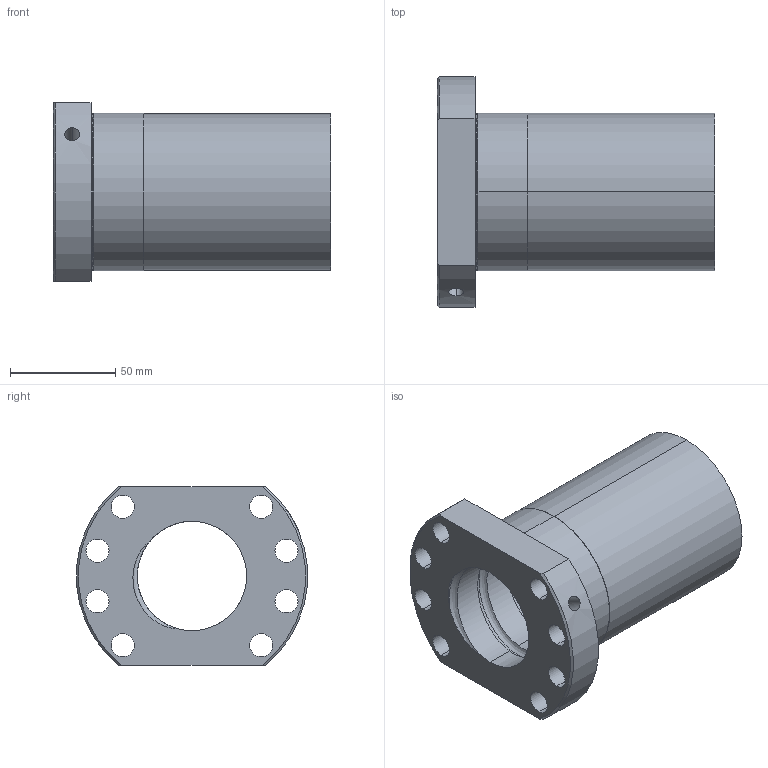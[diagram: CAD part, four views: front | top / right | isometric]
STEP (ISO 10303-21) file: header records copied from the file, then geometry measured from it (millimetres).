
FILE_DESCRIPTION (( 'STEP AP214' ), '1' );
FILE_NAME ('LLE5020-F.STEP', '2020-12-17T07:04:58', ( 'user' ), ( 'datathink' ), 'SwSTEP 2.0', 'SolidWorks 2013', '' );
FILE_SCHEMA (( 'AUTOMOTIVE_DESIGN' ));
Length unit declared in the file: millimetre
Products named in the file (1): LLE5020-F
Bounding box: 132 x 109.65 x 85 mm (x, y, z)
Volume: 343517.7 mm3; surface area: 73218 mm2
Topology: 1 solids, 1 shells, 57 faces, 157 edges, 103 vertices
Faces by surface type: cylinder 40, plane 7, torus 4, cone 4, bspline 2
Entity records: 7355 total; most frequent: CARTESIAN_POINT 5878, ORIENTED_EDGE 314, DIRECTION 284, EDGE_CURVE 157, AXIS2_PLACEMENT_3D 119, VERTEX_POINT 103, EDGE_LOOP 78, CIRCLE 63
